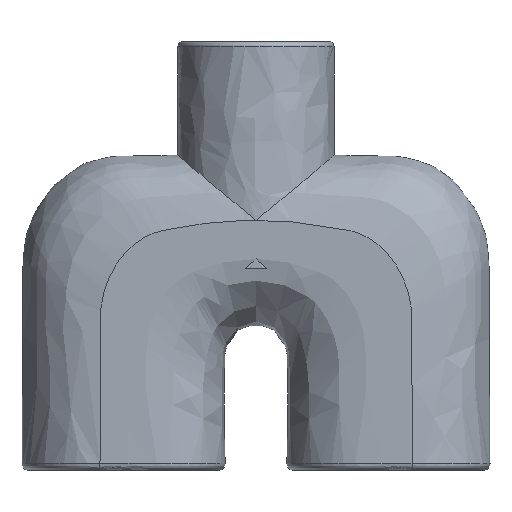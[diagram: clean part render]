
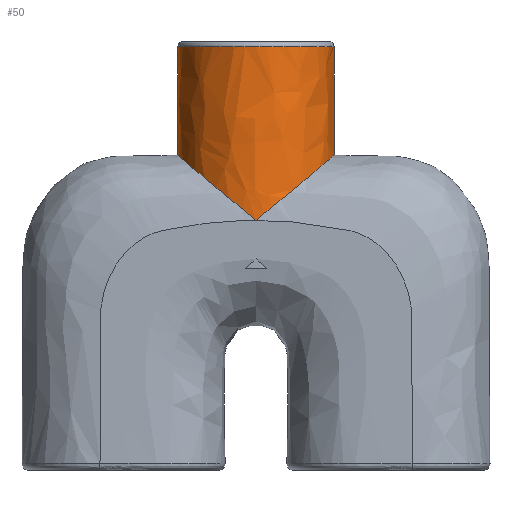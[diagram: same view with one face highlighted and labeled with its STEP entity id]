
A CAD part, front view. The second image highlights one B-rep face of the part: STEP entity #50.
In plain terms, the highlighted free-form (B-spline) face has degree [2, 1] with [5, 2] control points.
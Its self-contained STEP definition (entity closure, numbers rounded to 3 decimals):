
#50=ADVANCED_FACE('',(#70),#322,.T.);
#70=FACE_OUTER_BOUND('',#92,.T.);
#92=EDGE_LOOP('',(#160,#161,#162,#163,#164));
#160=ORIENTED_EDGE('',*,*,#198,.F.);
#161=ORIENTED_EDGE('',*,*,#201,.F.);
#162=ORIENTED_EDGE('',*,*,#208,.T.);
#163=ORIENTED_EDGE('',*,*,#210,.T.);
#164=ORIENTED_EDGE('',*,*,#216,.F.);
#198=EDGE_CURVE('',#289,#302,#232,.T.);
#201=EDGE_CURVE('',#292,#289,#234,.T.);
#208=EDGE_CURVE('',#292,#299,#258,.T.);
#210=EDGE_CURVE('',#299,#303,#260,.T.);
#216=EDGE_CURVE('',#302,#303,#266,.T.);
#232=B_SPLINE_CURVE_WITH_KNOTS('',3,(#6416,#6417,#6418,#6419,#6420,#6421,
#6422,#6423,#6424,#6425,#6426,#6427,#6428,#6429,#6430,#6431,#6432,#6433,
#6434,#6435,#6436,#6437,#6438,#6439,#6440,#6441,#6442,#6443,#6444,#6445,
#6446,#6447,#6448,#6449),.UNSPECIFIED.,.F.,.F.,(4,2,2,2,3,3,2,3,3,3,2,2,
3,4),(0.,4.819,9.638,14.457,19.276,
27.504,36.714,45.923,47.069,55.506,
68.196,74.542,80.889,88.412),
 .UNSPECIFIED.);
#234=B_SPLINE_CURVE_WITH_KNOTS('',3,(#6500,#6501,#6502,#6503,#6504,#6505,
#6506,#6507,#6508,#6509,#6510,#6511,#6512,#6513,#6514,#6515,#6516,#6517,
#6518,#6519,#6520,#6521,#6522,#6523,#6524,#6525,#6526,#6527,#6528,#6529,
#6530,#6531,#6532,#6533,#6534,#6535,#6536),.UNSPECIFIED.,.F.,.F.,(4,3,2,
2,3,3,3,2,3,3,2,2,2,3,4),(0.,7.523,13.87,20.215,
32.906,41.343,42.49,51.699,60.908,
69.137,73.956,78.774,83.593,88.412,
88.412),.UNSPECIFIED.);
#258=(
BOUNDED_CURVE()
B_SPLINE_CURVE(1,(#6659,#6660),.UNSPECIFIED.,.F.,.F.)
B_SPLINE_CURVE_WITH_KNOTS((2,2),(65.047,127.082),
 .UNSPECIFIED.)
CURVE()
GEOMETRIC_REPRESENTATION_ITEM()
RATIONAL_B_SPLINE_CURVE((1.,1.))
REPRESENTATION_ITEM('')
);
#260=(
BOUNDED_CURVE()
B_SPLINE_CURVE(2,(#6663,#6664,#6665,#6666,#6667),.UNSPECIFIED.,.F.,.F.)
B_SPLINE_CURVE_WITH_KNOTS((3,2,3),(0.,73.827,147.654),
 .UNSPECIFIED.)
CURVE()
GEOMETRIC_REPRESENTATION_ITEM()
RATIONAL_B_SPLINE_CURVE((1.,0.707,1.,0.707,1.))
REPRESENTATION_ITEM('')
);
#266=(
BOUNDED_CURVE()
B_SPLINE_CURVE(1,(#6765,#6766),.UNSPECIFIED.,.F.,.F.)
B_SPLINE_CURVE_WITH_KNOTS((2,2),(65.047,127.082),
 .UNSPECIFIED.)
CURVE()
GEOMETRIC_REPRESENTATION_ITEM()
RATIONAL_B_SPLINE_CURVE((1.,1.))
REPRESENTATION_ITEM('')
);
#289=VERTEX_POINT('',#6397);
#292=VERTEX_POINT('',#6400);
#299=VERTEX_POINT('',#6407);
#302=VERTEX_POINT('',#6410);
#303=VERTEX_POINT('',#6411);
#322=(
BOUNDED_SURFACE()
B_SPLINE_SURFACE(2,1,((#6275,#6276),(#6277,#6278),(#6279,#6280),(#6281,
#6282),(#6283,#6284)),.UNSPECIFIED.,.F.,.F.,.F.)
B_SPLINE_SURFACE_WITH_KNOTS((3,2,3),(2,2),(157.743,236.614,
315.486),(0.,130.094),.UNSPECIFIED.)
GEOMETRIC_REPRESENTATION_ITEM()
RATIONAL_B_SPLINE_SURFACE(((1.,1.),(0.707,0.707),
(1.,1.),(0.707,0.707),(1.,1.)))
REPRESENTATION_ITEM('')
SURFACE()
);
#6275=CARTESIAN_POINT('',(960.954,-358.912,79.23));
#6276=CARTESIAN_POINT('',(960.954,-358.912,166.606));
#6277=CARTESIAN_POINT('',(960.954,-391.39,79.23));
#6278=CARTESIAN_POINT('',(960.954,-391.39,166.606));
#6279=CARTESIAN_POINT('',(990.983,-391.39,79.23));
#6280=CARTESIAN_POINT('',(990.983,-391.39,166.606));
#6281=CARTESIAN_POINT('',(1021.011,-391.39,79.23));
#6282=CARTESIAN_POINT('',(1021.011,-391.39,166.606));
#6283=CARTESIAN_POINT('',(1021.011,-358.912,79.23));
#6284=CARTESIAN_POINT('',(1021.011,-358.912,166.606));
#6397=CARTESIAN_POINT('',(990.983,-391.39,97.898));
#6400=CARTESIAN_POINT('',(1021.011,-358.912,122.918));
#6407=CARTESIAN_POINT('',(1021.011,-358.912,164.583));
#6410=CARTESIAN_POINT('',(960.954,-358.912,122.918));
#6411=CARTESIAN_POINT('',(960.954,-358.912,164.583));
#6416=CARTESIAN_POINT('',(990.983,-391.39,97.898));
#6417=CARTESIAN_POINT('',(990.208,-391.39,98.544));
#6418=CARTESIAN_POINT('',(989.432,-391.357,99.186));
#6419=CARTESIAN_POINT('',(987.878,-391.227,100.463));
#6420=CARTESIAN_POINT('',(987.1,-391.128,101.097));
#6421=CARTESIAN_POINT('',(985.551,-390.865,102.357));
#6422=CARTESIAN_POINT('',(984.778,-390.7,102.984));
#6423=CARTESIAN_POINT('',(983.242,-390.304,104.228));
#6424=CARTESIAN_POINT('',(982.478,-390.072,104.846));
#6425=CARTESIAN_POINT('',(981.722,-389.807,105.458));
#6426=CARTESIAN_POINT('',(980.43,-389.354,106.504));
#6427=CARTESIAN_POINT('',(979.159,-388.803,107.536));
#6428=CARTESIAN_POINT('',(977.918,-388.155,108.549));
#6429=CARTESIAN_POINT('',(976.531,-387.43,109.681));
#6430=CARTESIAN_POINT('',(975.181,-386.582,110.79));
#6431=CARTESIAN_POINT('',(972.592,-384.643,112.935));
#6432=CARTESIAN_POINT('',(971.35,-383.55,113.972));
#6433=CARTESIAN_POINT('',(970.182,-382.336,114.956));
#6434=CARTESIAN_POINT('',(970.036,-382.185,115.079));
#6435=CARTESIAN_POINT('',(969.892,-382.032,115.201));
#6436=CARTESIAN_POINT('',(969.749,-381.877,115.322));
#6437=CARTESIAN_POINT('',(968.695,-380.738,116.211));
#6438=CARTESIAN_POINT('',(967.704,-379.496,117.055));
#6439=CARTESIAN_POINT('',(966.793,-378.156,117.836));
#6440=CARTESIAN_POINT('',(965.424,-376.143,119.009));
#6441=CARTESIAN_POINT('',(964.237,-373.911,120.039));
#6442=CARTESIAN_POINT('',(962.825,-370.275,121.272));
#6443=CARTESIAN_POINT('',(962.418,-369.02,121.629));
#6444=CARTESIAN_POINT('',(961.744,-366.435,122.221));
#6445=CARTESIAN_POINT('',(961.479,-365.11,122.455));
#6446=CARTESIAN_POINT('',(961.29,-363.761,122.621));
#6447=CARTESIAN_POINT('',(961.067,-362.162,122.818));
#6448=CARTESIAN_POINT('',(960.954,-360.541,122.918));
#6449=CARTESIAN_POINT('',(960.954,-358.912,122.918));
#6500=CARTESIAN_POINT('',(1021.011,-358.912,122.918));
#6501=CARTESIAN_POINT('',(1021.011,-360.541,122.918));
#6502=CARTESIAN_POINT('',(1020.898,-362.162,122.818));
#6503=CARTESIAN_POINT('',(1020.675,-363.761,122.621));
#6504=CARTESIAN_POINT('',(1020.486,-365.11,122.455));
#6505=CARTESIAN_POINT('',(1020.221,-366.435,122.221));
#6506=CARTESIAN_POINT('',(1019.547,-369.02,121.629));
#6507=CARTESIAN_POINT('',(1019.14,-370.275,121.272));
#6508=CARTESIAN_POINT('',(1017.728,-373.911,120.039));
#6509=CARTESIAN_POINT('',(1016.541,-376.143,119.009));
#6510=CARTESIAN_POINT('',(1015.172,-378.156,117.836));
#6511=CARTESIAN_POINT('',(1014.261,-379.496,117.055));
#6512=CARTESIAN_POINT('',(1013.27,-380.738,116.211));
#6513=CARTESIAN_POINT('',(1012.216,-381.877,115.322));
#6514=CARTESIAN_POINT('',(1012.073,-382.032,115.2));
#6515=CARTESIAN_POINT('',(1011.928,-382.185,115.079));
#6516=CARTESIAN_POINT('',(1011.783,-382.337,114.956));
#6517=CARTESIAN_POINT('',(1010.614,-383.55,113.972));
#6518=CARTESIAN_POINT('',(1009.373,-384.643,112.934));
#6519=CARTESIAN_POINT('',(1006.784,-386.582,110.79));
#6520=CARTESIAN_POINT('',(1005.434,-387.43,109.681));
#6521=CARTESIAN_POINT('',(1004.047,-388.155,108.549));
#6522=CARTESIAN_POINT('',(1002.806,-388.803,107.536));
#6523=CARTESIAN_POINT('',(1001.535,-389.354,106.504));
#6524=CARTESIAN_POINT('',(1000.243,-389.807,105.458));
#6525=CARTESIAN_POINT('',(999.486,-390.072,104.845));
#6526=CARTESIAN_POINT('',(998.723,-390.304,104.228));
#6527=CARTESIAN_POINT('',(997.187,-390.7,102.984));
#6528=CARTESIAN_POINT('',(996.414,-390.865,102.357));
#6529=CARTESIAN_POINT('',(994.864,-391.128,101.097));
#6530=CARTESIAN_POINT('',(994.087,-391.227,100.462));
#6531=CARTESIAN_POINT('',(992.533,-391.357,99.186));
#6532=CARTESIAN_POINT('',(991.757,-391.39,98.544));
#6533=CARTESIAN_POINT('',(990.983,-391.39,97.898));
#6534=CARTESIAN_POINT('',(990.983,-391.39,97.898));
#6535=CARTESIAN_POINT('',(990.983,-391.39,97.898));
#6536=CARTESIAN_POINT('',(990.983,-391.39,97.898));
#6659=CARTESIAN_POINT('',(1021.011,-358.912,122.918));
#6660=CARTESIAN_POINT('',(1021.011,-358.912,164.583));
#6663=CARTESIAN_POINT('',(1021.011,-358.912,164.583));
#6664=CARTESIAN_POINT('',(1021.011,-391.39,164.583));
#6665=CARTESIAN_POINT('',(990.983,-391.39,164.583));
#6666=CARTESIAN_POINT('',(960.954,-391.39,164.583));
#6667=CARTESIAN_POINT('',(960.954,-358.912,164.583));
#6765=CARTESIAN_POINT('',(960.954,-358.912,122.918));
#6766=CARTESIAN_POINT('',(960.954,-358.912,164.583));
